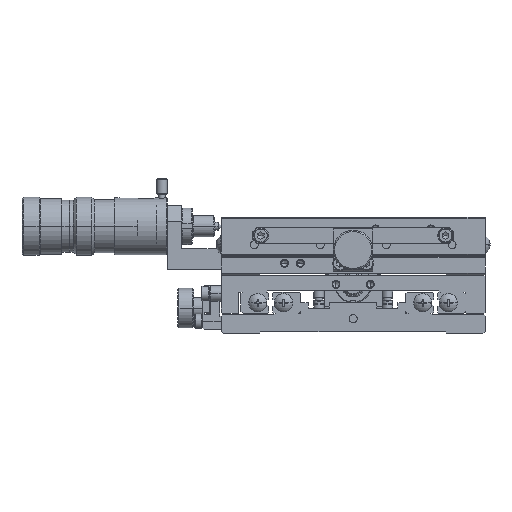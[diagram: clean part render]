
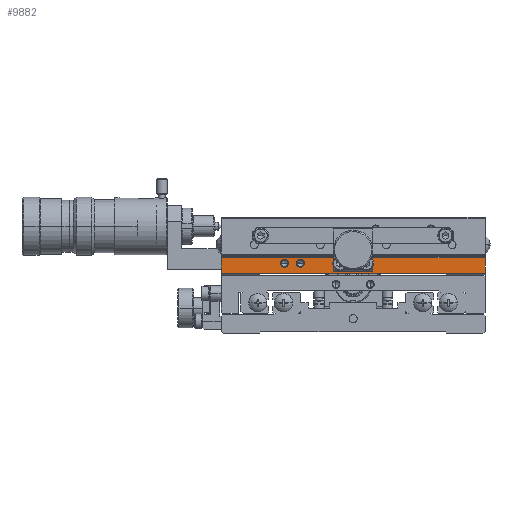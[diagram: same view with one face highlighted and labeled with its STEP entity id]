
A CAD part, front view. The second image highlights one B-rep face of the part: STEP entity #9882.
In plain terms, the highlighted planar face has unit normal (0, -1, 0) as drawn and (0, 1, 0) by its records, which use the part's own axes.
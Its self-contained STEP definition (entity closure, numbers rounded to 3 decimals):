
#9027 = EDGE_CURVE ( 'NONE', #69175, #69166, #93576, .T. ) ;
#9050 = EDGE_CURVE ( 'NONE', #69314, #69311, #93630, .T. ) ;
#9815 = ORIENTED_EDGE ( 'NONE', *, *, #22212, .T. ) ;
#9817 = ORIENTED_EDGE ( 'NONE', *, *, #9840, .T. ) ;
#9834 = VERTEX_POINT ( 'NONE', #96150 ) ;
#9840 = EDGE_CURVE ( 'NONE', #22120, #9834, #96132, .T. ) ;
#9851 = VERTEX_POINT ( 'NONE', #96219 ) ;
#9853 = ORIENTED_EDGE ( 'NONE', *, *, #9855, .T. ) ;
#9855 = EDGE_CURVE ( 'NONE', #9851, #9870, #96213, .T. ) ;
#9858 = ORIENTED_EDGE ( 'NONE', *, *, #9868, .T. ) ;
#9860 = EDGE_LOOP ( 'NONE', ( #9861, #9863 ) ) ;
#9861 = ORIENTED_EDGE ( 'NONE', *, *, #9050, .F. ) ;
#9863 = ORIENTED_EDGE ( 'NONE', *, *, #69313, .F. ) ;
#9865 = EDGE_LOOP ( 'NONE', ( #9894, #9896 ) ) ;
#9868 = EDGE_CURVE ( 'NONE', #9870, #22113, #96179, .T. ) ;
#9870 = VERTEX_POINT ( 'NONE', #96289 ) ;
#9882 = ADVANCED_FACE ( 'NONE', ( #96244, #96243, #96242 ), #96241, .T. ) ;
#9883 = EDGE_LOOP ( 'NONE', ( #9885, #9888, #9815, #9817, #9920, #9925, #9853, #9858 ) ) ;
#9885 = ORIENTED_EDGE ( 'NONE', *, *, #22291, .F. ) ;
#9888 = ORIENTED_EDGE ( 'NONE', *, *, #22104, .F. ) ;
#9894 = ORIENTED_EDGE ( 'NONE', *, *, #9027, .F. ) ;
#9896 = ORIENTED_EDGE ( 'NONE', *, *, #69174, .F. ) ;
#9920 = ORIENTED_EDGE ( 'NONE', *, *, #9921, .F. ) ;
#9921 = EDGE_CURVE ( 'NONE', #9923, #9834, #96394, .T. ) ;
#9923 = VERTEX_POINT ( 'NONE', #96386 ) ;
#9925 = ORIENTED_EDGE ( 'NONE', *, *, #9928, .F. ) ;
#9928 = EDGE_CURVE ( 'NONE', #9851, #9923, #96371, .T. ) ;
#19503 = DIRECTION ( 'NONE',  ( -1., 0., 0. ) ) ;
#19513 = VECTOR ( 'NONE', #19503, 1000. ) ;
#20640 = CARTESIAN_POINT ( 'NONE',  ( 7.5, 50., 1.5 ) ) ;
#20641 = LINE ( 'NONE', #20640, #19513 ) ;
#20644 = CARTESIAN_POINT ( 'NONE',  ( 7.5, 50., 1.5 ) ) ;
#20692 = CARTESIAN_POINT ( 'NONE',  ( 7.5, 50., 6.5 ) ) ;
#20700 = CARTESIAN_POINT ( 'NONE',  ( -7.5, 50., 6.5 ) ) ;
#20753 = CARTESIAN_POINT ( 'NONE',  ( -7.5, 50., 1.5 ) ) ;
#20820 = DIRECTION ( 'NONE',  ( 0., 0., 1. ) ) ;
#20822 = VECTOR ( 'NONE', #20820, 1000. ) ;
#20824 = CARTESIAN_POINT ( 'NONE',  ( 7.5, 50., 1.5 ) ) ;
#20832 = LINE ( 'NONE', #20824, #20822 ) ;
#21041 = DIRECTION ( 'NONE',  ( 0., 0., 1. ) ) ;
#21043 = VECTOR ( 'NONE', #21041, 1000. ) ;
#21046 = CARTESIAN_POINT ( 'NONE',  ( -7.5, 50., 1.5 ) ) ;
#21047 = LINE ( 'NONE', #21046, #21043 ) ;
#22099 = VERTEX_POINT ( 'NONE', #20644 ) ;
#22104 = EDGE_CURVE ( 'NONE', #22099, #22145, #20641, .T. ) ;
#22113 = VERTEX_POINT ( 'NONE', #20700 ) ;
#22120 = VERTEX_POINT ( 'NONE', #20692 ) ;
#22145 = VERTEX_POINT ( 'NONE', #20753 ) ;
#22212 = EDGE_CURVE ( 'NONE', #22099, #22120, #20832, .T. ) ;
#22291 = EDGE_CURVE ( 'NONE', #22145, #22113, #21047, .T. ) ;
#69166 = VERTEX_POINT ( 'NONE', #87087 ) ;
#69174 = EDGE_CURVE ( 'NONE', #69166, #69175, #87081, .T. ) ;
#69175 = VERTEX_POINT ( 'NONE', #87076 ) ;
#69311 = VERTEX_POINT ( 'NONE', #87252 ) ;
#69313 = EDGE_CURVE ( 'NONE', #69311, #69314, #87250, .T. ) ;
#69314 = VERTEX_POINT ( 'NONE', #87245 ) ;
#87076 = CARTESIAN_POINT ( 'NONE',  ( 24.5, 50., 4.5 ) ) ;
#87077 = DIRECTION ( 'NONE',  ( -1., 0., 0. ) ) ;
#87078 = DIRECTION ( 'NONE',  ( 0., 1., 0. ) ) ;
#87079 = CARTESIAN_POINT ( 'NONE',  ( 26., 50., 4.5 ) ) ;
#87080 = AXIS2_PLACEMENT_3D ( 'NONE', #87079, #87078, #87077 ) ;
#87081 = CIRCLE ( 'NONE', #87080, 1.5 ) ;
#87087 = CARTESIAN_POINT ( 'NONE',  ( 27.5, 50., 4.5 ) ) ;
#87245 = CARTESIAN_POINT ( 'NONE',  ( 18.5, 50., 4.5 ) ) ;
#87246 = DIRECTION ( 'NONE',  ( -1., 0., 0. ) ) ;
#87247 = DIRECTION ( 'NONE',  ( 0., 1., 0. ) ) ;
#87248 = CARTESIAN_POINT ( 'NONE',  ( 20., 50., 4.5 ) ) ;
#87249 = AXIS2_PLACEMENT_3D ( 'NONE', #87248, #87247, #87246 ) ;
#87250 = CIRCLE ( 'NONE', #87249, 1.5 ) ;
#87252 = CARTESIAN_POINT ( 'NONE',  ( 21.5, 50., 4.5 ) ) ;
#93570 = DIRECTION ( 'NONE',  ( -1., 0., 0. ) ) ;
#93571 = DIRECTION ( 'NONE',  ( 0., 1., 0. ) ) ;
#93573 = CARTESIAN_POINT ( 'NONE',  ( 26., 50., 4.5 ) ) ;
#93574 = AXIS2_PLACEMENT_3D ( 'NONE', #93573, #93571, #93570 ) ;
#93576 = CIRCLE ( 'NONE', #93574, 1.5 ) ;
#93614 = DIRECTION ( 'NONE',  ( -1., 0., 0. ) ) ;
#93616 = DIRECTION ( 'NONE',  ( 0., 1., 0. ) ) ;
#93618 = CARTESIAN_POINT ( 'NONE',  ( 20., 50., 4.5 ) ) ;
#93620 = AXIS2_PLACEMENT_3D ( 'NONE', #93618, #93616, #93614 ) ;
#93630 = CIRCLE ( 'NONE', #93620, 1.5 ) ;
#96127 = DIRECTION ( 'NONE',  ( 1., 0., 0. ) ) ;
#96128 = VECTOR ( 'NONE', #96127, 1000. ) ;
#96130 = CARTESIAN_POINT ( 'NONE',  ( -50., 50., 6.5 ) ) ;
#96132 = LINE ( 'NONE', #96130, #96128 ) ;
#96150 = CARTESIAN_POINT ( 'NONE',  ( 50., 50., 6.5 ) ) ;
#96176 = DIRECTION ( 'NONE',  ( 1., 0., 0. ) ) ;
#96177 = VECTOR ( 'NONE', #96176, 1000. ) ;
#96178 = CARTESIAN_POINT ( 'NONE',  ( -50., 50., 6.5 ) ) ;
#96179 = LINE ( 'NONE', #96178, #96177 ) ;
#96210 = DIRECTION ( 'NONE',  ( 0., 0., 1. ) ) ;
#96211 = VECTOR ( 'NONE', #96210, 1000. ) ;
#96212 = CARTESIAN_POINT ( 'NONE',  ( -50., 50., 0.8 ) ) ;
#96213 = LINE ( 'NONE', #96212, #96211 ) ;
#96219 = CARTESIAN_POINT ( 'NONE',  ( -50., 50., 0.8 ) ) ;
#96232 = DIRECTION ( 'NONE',  ( 1., 0., 0. ) ) ;
#96233 = DIRECTION ( 'NONE',  ( 0., 1., 0. ) ) ;
#96234 = AXIS2_PLACEMENT_3D ( 'NONE', #96240, #96233, #96232 ) ;
#96240 = CARTESIAN_POINT ( 'NONE',  ( -50., 50., 0.8 ) ) ;
#96241 = PLANE ( 'NONE',  #96234 ) ;
#96242 = FACE_BOUND ( 'NONE', #9865, .T. ) ;
#96243 = FACE_BOUND ( 'NONE', #9860, .T. ) ;
#96244 = FACE_OUTER_BOUND ( 'NONE', #9883, .T. ) ;
#96289 = CARTESIAN_POINT ( 'NONE',  ( -50., 50., 6.5 ) ) ;
#96371 = LINE ( 'NONE', #96491, #96489 ) ;
#96386 = CARTESIAN_POINT ( 'NONE',  ( 50., 50., 0.8 ) ) ;
#96389 = DIRECTION ( 'NONE',  ( 0., 0., 1. ) ) ;
#96391 = VECTOR ( 'NONE', #96389, 1000. ) ;
#96393 = CARTESIAN_POINT ( 'NONE',  ( 50., 50., 0.8 ) ) ;
#96394 = LINE ( 'NONE', #96393, #96391 ) ;
#96488 = DIRECTION ( 'NONE',  ( 1., 0., 0. ) ) ;
#96489 = VECTOR ( 'NONE', #96488, 1000. ) ;
#96491 = CARTESIAN_POINT ( 'NONE',  ( -50., 50., 0.8 ) ) ;
